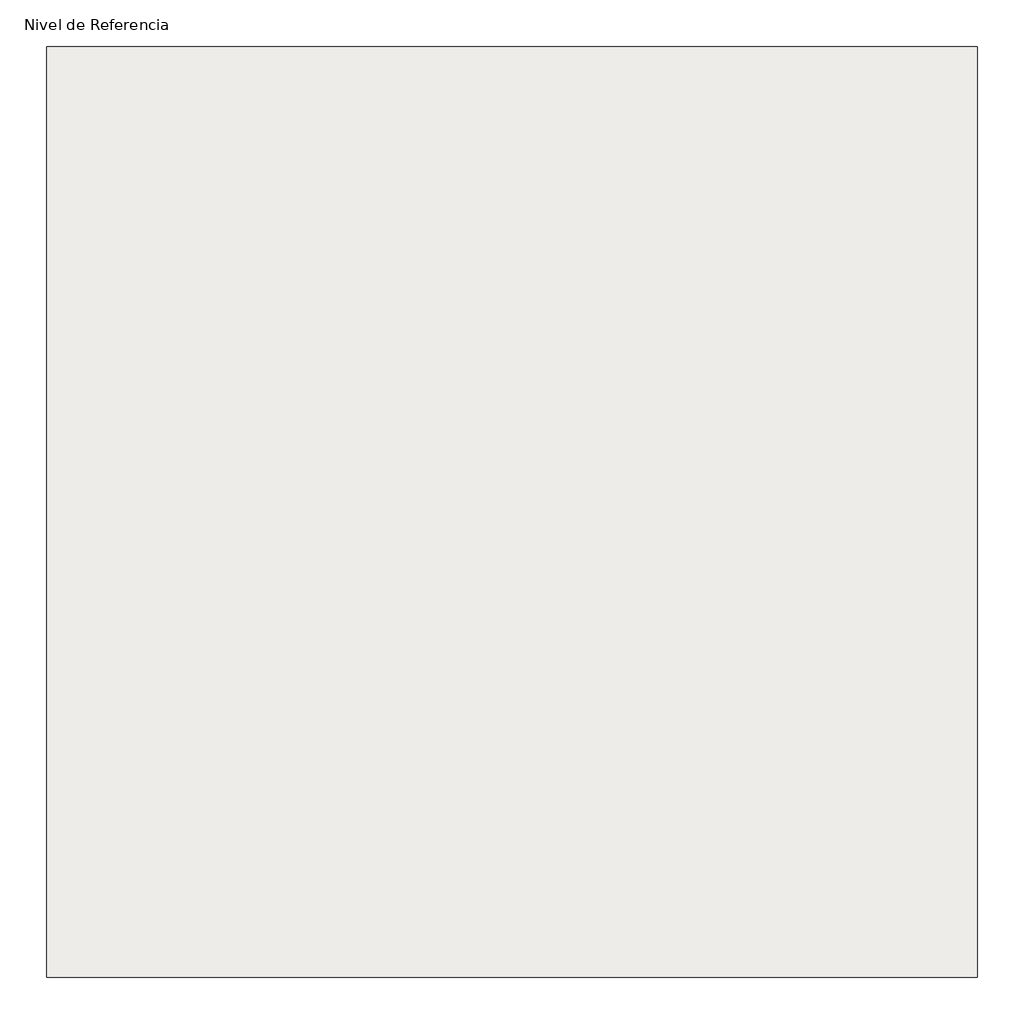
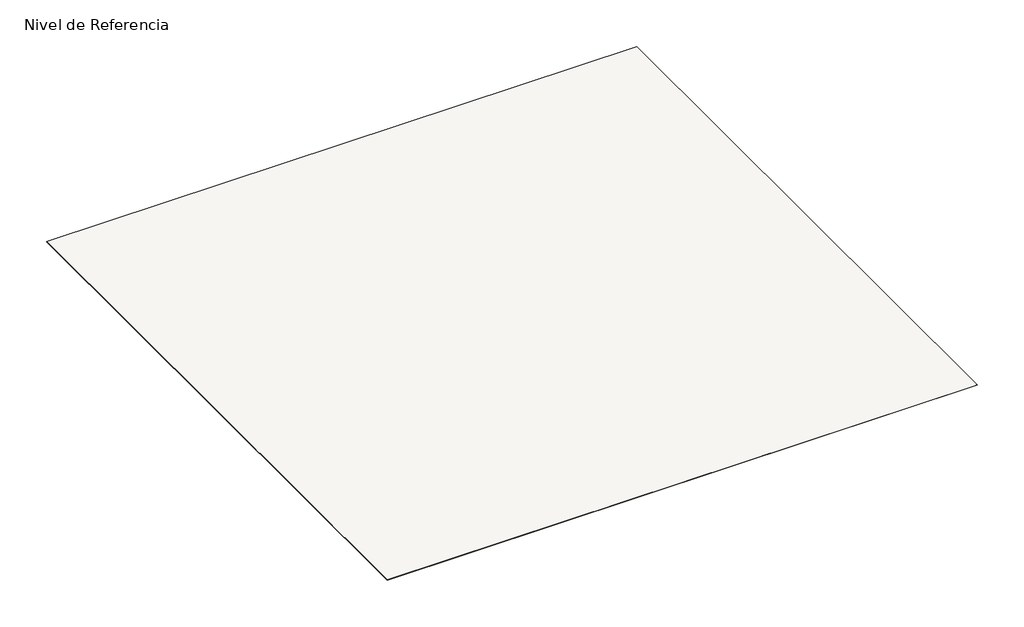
# One storey: 1 roof.
"""IFC4 building model written with IfcOpenShell, lengths in millimetres."""

from ifc_helpers import new_model, si_unit, origin, origin_with_axes, place, context, project, spatial, polyline, outline, extrude, element, save

model = new_model("IFC4")

# Units and contexts
model_context = context("Model", 3, world=origin())
ifc_project = project(units=[si_unit("LENGTHUNIT", "METRE", prefix="MILLI")], contexts=[model_context])

# Site, building, storey
site = spatial("IfcSite", under=ifc_project)
building = spatial("IfcBuilding", under=site)
storey = spatial("IfcBuildingStorey", under=building, Name="Nivel de Referencia", Elevation=0.0)

# Roof
placement = place(None, origin())
element("IfcRoof", 1, ObjectType="Material_Rockwool_Fieltro Rocksourdine", at=placement, inside=storey, context=model_context, shape_type="SweptSolid", body=[
    extrude(outline(polyline([(-825.097678, 1247.4528719), (1474.902322, 1247.4528719), (1474.902322, -1052.5471281), (-825.097678, -1052.5471281), (-825.097678, 1247.4528719)])), origin_with_axes(), (0.0, 0.0, 1.0), 1.6),
])

save(model, "model.ifc")
